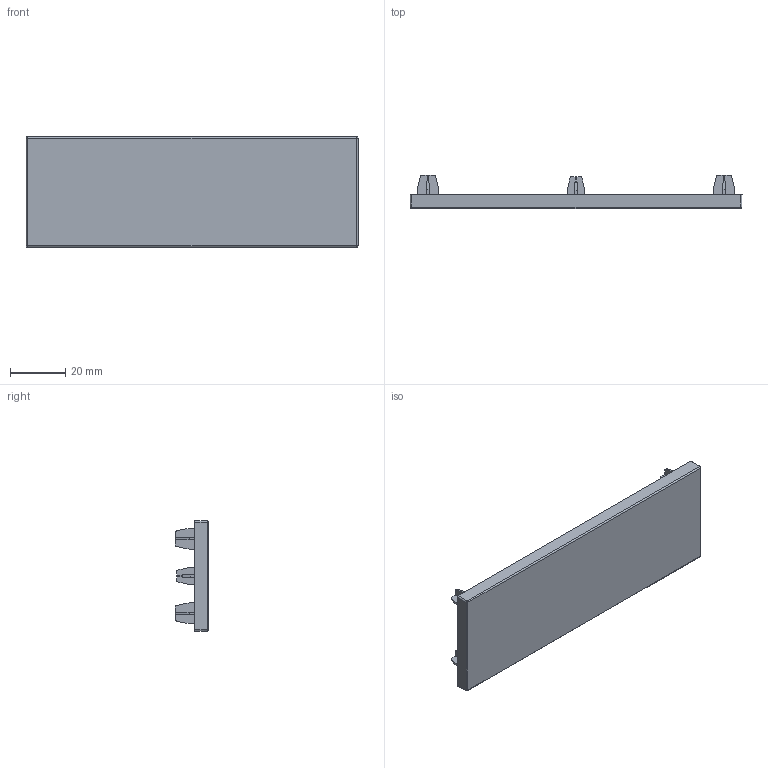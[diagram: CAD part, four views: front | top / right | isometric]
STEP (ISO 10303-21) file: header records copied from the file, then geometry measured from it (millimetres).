
FILE_DESCRIPTION (( 'STEP AP214' ), '1' );
FILE_NAME ('HPL40120.STEP', '2018-03-15T00:46:49', ( '' ), ( '' ), 'SwSTEP 2.0', 'SolidWorks 2017', '' );
FILE_SCHEMA (( 'AUTOMOTIVE_DESIGN' ));
Length unit declared in the file: millimetre
Products named in the file (1): HPL40120
Bounding box: 120 x 12 x 40 mm (x, y, z)
Volume: 9684.1 mm3; surface area: 13976.2 mm2
Topology: 1 solids, 1 shells, 164 faces, 460 edges, 300 vertices
Faces by surface type: plane 112, cylinder 48, sphere 4
Entity records: 5170 total; most frequent: CARTESIAN_POINT 1173, ORIENTED_EDGE 912, DIRECTION 714, EDGE_CURVE 456, VECTOR 360, LINE 360, VERTEX_POINT 300, AXIS2_PLACEMENT_3D 177
